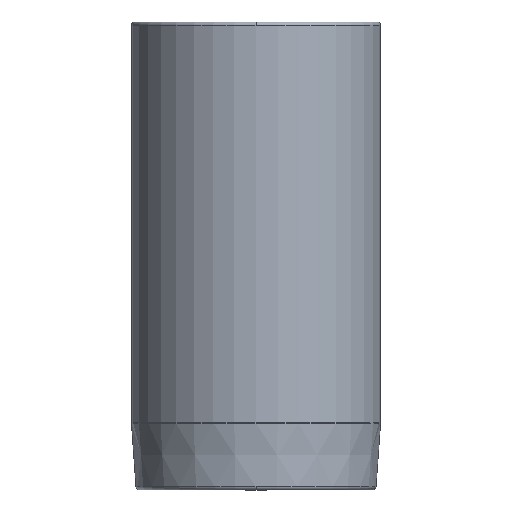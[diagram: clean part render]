
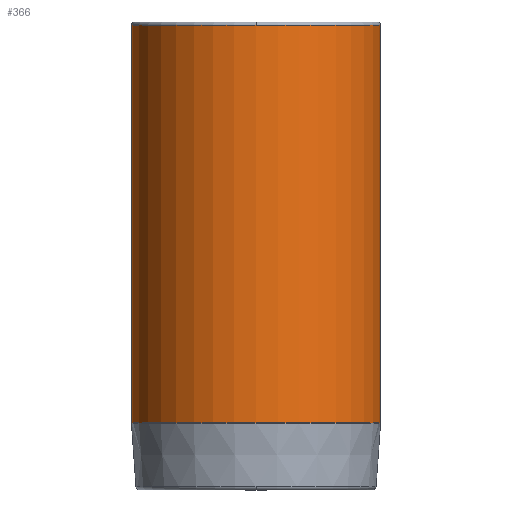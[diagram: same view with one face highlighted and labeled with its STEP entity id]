
A CAD part, front view. The second image highlights one B-rep face of the part: STEP entity #366.
In plain terms, the highlighted cylindrical face has radius 18.625 mm (diameter 37.25 mm), a partial arc.
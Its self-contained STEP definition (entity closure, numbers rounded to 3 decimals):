
#271=CARTESIAN_POINT('',(0.0,-18.625,34.5));
#272=VERTEX_POINT('',#271);
#298=CARTESIAN_POINT('',(-18.625,0.,34.5));
#299=VERTEX_POINT('',#298);
#307=CARTESIAN_POINT('',(0.0,0.,34.5));
#308=DIRECTION('',(0.0,0.0,1.0));
#309=DIRECTION('',(1.0,0.0,0.0));
#310=AXIS2_PLACEMENT_3D('',#307,#308,#309);
#311=CIRCLE('',#310,18.625);
#312=EDGE_CURVE('',#299,#272,#311,.T.);
#317=CARTESIAN_POINT('',(0.0,0.,4.767));
#318=DIRECTION('',(0.0,0.,1.0));
#319=DIRECTION('',(1.0,0.0,0.0));
#320=AXIS2_PLACEMENT_3D('',#317,#318,#319);
#321=CYLINDRICAL_SURFACE('',#320,18.625);
#322=CARTESIAN_POINT('',(18.625,0.,34.5));
#323=VERTEX_POINT('',#322);
#324=CARTESIAN_POINT('',(18.625,0.,-24.965));
#325=VERTEX_POINT('',#324);
#326=CARTESIAN_POINT('',(18.625,0.,34.5));
#327=DIRECTION('',(0.0,0.0,-1.0));
#328=VECTOR('',#327,59.465);
#329=LINE('',#326,#328);
#330=EDGE_CURVE('',#323,#325,#329,.T.);
#331=ORIENTED_EDGE('',*,*,#330,.F.);
#332=CARTESIAN_POINT('',(0.0,0.,34.5));
#333=DIRECTION('',(0.0,0.0,1.0));
#334=DIRECTION('',(1.0,0.0,0.0));
#335=AXIS2_PLACEMENT_3D('',#332,#333,#334);
#336=CIRCLE('',#335,18.625);
#337=EDGE_CURVE('',#272,#323,#336,.T.);
#338=ORIENTED_EDGE('',*,*,#337,.F.);
#339=ORIENTED_EDGE('',*,*,#312,.F.);
#340=CARTESIAN_POINT('',(-18.625,0.,-24.965));
#341=VERTEX_POINT('',#340);
#342=CARTESIAN_POINT('',(-18.625,0.,34.5));
#343=DIRECTION('',(0.0,0.0,-1.0));
#344=VECTOR('',#343,59.465);
#345=LINE('',#342,#344);
#346=EDGE_CURVE('',#299,#341,#345,.T.);
#347=ORIENTED_EDGE('',*,*,#346,.T.);
#348=CARTESIAN_POINT('',(0.0,-18.625,-24.965));
#349=VERTEX_POINT('',#348);
#350=CARTESIAN_POINT('',(0.0,0.,-24.965));
#351=DIRECTION('',(0.0,0.0,1.0));
#352=DIRECTION('',(1.0,0.0,0.0));
#353=AXIS2_PLACEMENT_3D('',#350,#351,#352);
#354=CIRCLE('',#353,18.625);
#355=EDGE_CURVE('',#341,#349,#354,.T.);
#356=ORIENTED_EDGE('',*,*,#355,.T.);
#357=CARTESIAN_POINT('',(0.0,0.,-24.965));
#358=DIRECTION('',(0.0,0.0,1.0));
#359=DIRECTION('',(1.0,0.0,0.0));
#360=AXIS2_PLACEMENT_3D('',#357,#358,#359);
#361=CIRCLE('',#360,18.625);
#362=EDGE_CURVE('',#349,#325,#361,.T.);
#363=ORIENTED_EDGE('',*,*,#362,.T.);
#364=EDGE_LOOP('',(#331,#338,#339,#347,#356,#363));
#365=FACE_OUTER_BOUND('',#364,.T.);
#366=ADVANCED_FACE('',(#365),#321,.T.);
